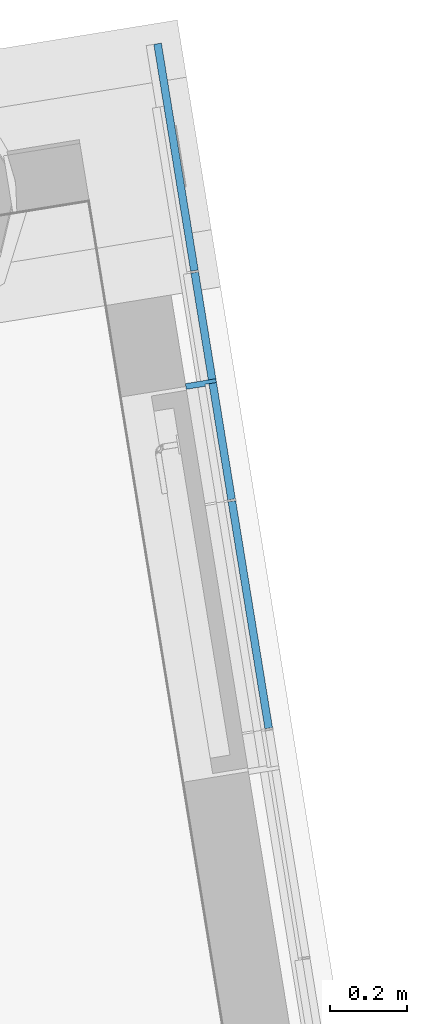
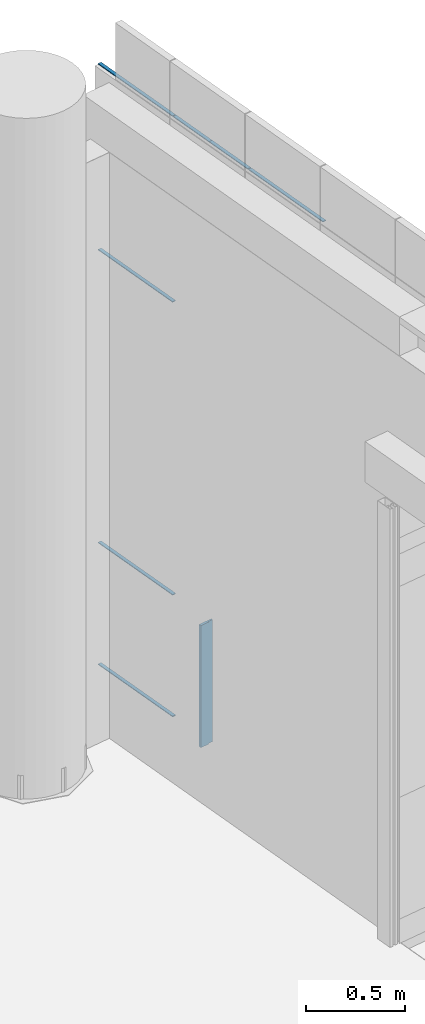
# One storey, part 10 of 38: 8 members, 1 element without a shape of its own.
"""IFC2X3 building model written with IfcOpenShell, lengths in millimetres."""

from ifc_helpers import new_model, entity, si_unit, converted_unit, derived_unit, direction, frame, origin, origin_with_axes, origin_2d_with_axis, place, context, subcontext, project, spatial, polyline, rectangle, outline, extrude, source, transform, mapped, material, type_object, element, aggregate, save


model = new_model("IFC2X3")

# Units and contexts
model_context = context("Model", 3, precision=0.01, world=origin(), true_north=direction((6.12323399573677e-17, 1.0)))
plan_context = context("Plan", 3, precision=1e-05, world=origin_with_axes())
body_context = subcontext(model_context, "Body", "Model", "MODEL_VIEW")
ifc_project = project(units=[converted_unit("PLANEANGLEUNIT", "DEGREE", entity("IfcPositiveLengthMeasure", 0.0174532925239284), si_unit("PLANEANGLEUNIT", "RADIAN"), dimensions=[0, 0, 0, 0, 0, 0, 0]), si_unit("AREAUNIT", "SQUARE_METRE"), si_unit("LENGTHUNIT", "METRE", prefix="MILLI"), si_unit("MASSUNIT", "GRAM", prefix="KILO"), si_unit("POWERUNIT", "WATT"), si_unit("PRESSUREUNIT", "PASCAL", prefix="KILO"), si_unit("FORCEUNIT", "NEWTON", prefix="KILO"), si_unit("ELECTRICVOLTAGEUNIT", "VOLT"), si_unit("ELECTRICCURRENTUNIT", "AMPERE"), si_unit("THERMODYNAMICTEMPERATUREUNIT", "DEGREE_CELSIUS"), si_unit("TIMEUNIT", "SECOND"), si_unit("VOLUMEUNIT", "CUBIC_METRE"), derived_unit("LINEARVELOCITYUNIT", [(si_unit("LENGTHUNIT", "METRE"), 1), (si_unit("TIMEUNIT", "SECOND"), -1)]), derived_unit("VOLUMETRICFLOWRATEUNIT", [(si_unit("VOLUMEUNIT", "CUBIC_METRE"), 1), (si_unit("TIMEUNIT", "SECOND"), -1)]), derived_unit("THERMALTRANSMITTANCEUNIT", [(si_unit("POWERUNIT", "WATT"), 1), (si_unit("THERMODYNAMICTEMPERATUREUNIT", "KELVIN"), -1), (si_unit("AREAUNIT", "SQUARE_METRE"), -1)]), derived_unit("SOUNDPRESSUREUNIT", [(si_unit("PRESSUREUNIT", "PASCAL"), 1)])], contexts=[model_context, plan_context])

# Site, building, storey
site_placement = place(None, frame((-0.00071070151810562, 0.00438415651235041, 0.0), z_axis=(0.0, 0.0, 1.0), x_axis=(-0.160236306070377, 0.987078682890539, 0.0)))
site = spatial("IfcSite", under=ifc_project, at=site_placement, Name="Default", CompositionType="ELEMENT")
building_placement = place(site_placement, origin_with_axes())
building = spatial("IfcBuilding", under=site, at=building_placement, Name="TOO", CompositionType="ELEMENT")
storey_placement = place(building_placement, frame((0.0, 0.0, 50999.9999999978), z_axis=(0.0, 0.0, 1.0), x_axis=(1.0, 0.0, 0.0)))
storey = spatial("IfcBuildingStorey", under=building, at=storey_placement, Name="Nivå D-H01", CompositionType="ELEMENT", Elevation=50999.9999999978)

# Curtain wall, members
curtain_wall_type = type_object("IfcCurtainWallType", Name="Curtain Wall:Curtain Wall Standard (Bruk kun denne)", PredefinedType="NOTDEFINED")
curtain_wall_placement = place(storey_placement, frame((0.0, 0.0, -50999.9999999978), z_axis=(0.0, 0.0, 1.0), x_axis=(1.0, 0.0, 0.0)))
curtain_wall = element("IfcCurtainWall", 1, at=curtain_wall_placement, inside=storey, type_object=curtain_wall_type, Name="Curtain Wall:Curtain Wall Standard (Bruk kun denne)", ObjectType="Curtain Wall:Curtain Wall Standard (Bruk kun denne)")
ifc_material_1 = material(Name="Rubber")
member_type_1 = type_object("IfcMemberType", Name="Rectangular Mullion:A246 - Fuge 5mm L09", PredefinedType="MULLION", material=ifc_material_1)
shared_shape_1 = source(origin(), body_context, "Body", "SweptSolid", [
    extrude(rectangle(XDim=5.0, YDim=20.0, at=origin_2d_with_axis()), frame((0.0, 10.0, -595.0), z_axis=(0.0, 0.0, 1.0), x_axis=(-1.0, 0.0, 0.0)), (0.0, 0.0, 1.0), 594.999999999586),
])
member_1_placement = place(curtain_wall_placement, frame((779580.119644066, -604232.480498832, 51149.9999999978), z_axis=(-1.0, 0.0, 0.0), x_axis=(0.0, 0.0, 1.0)))
member_1 = element("IfcMember", 2, at=member_1_placement, type_object=member_type_1, material=ifc_material_1, Name="Rectangular Mullion:A246 - Fuge 5mm L09", ObjectType="Rectangular Mullion:A246 - Fuge 5mm L09", context=body_context, shape_type="MappedRepresentation", body=[
    mapped(shared_shape_1, transform((0.0, 0.0, 0.0), scale=1.0)),
])
member_2_placement = place(curtain_wall_placement, frame((779580.119644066, -604232.480498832, 53704.9999999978), z_axis=(-1.0, 0.0, 0.0), x_axis=(0.0, 0.0, 1.0)))
member_2 = element("IfcMember", 3, at=member_2_placement, type_object=member_type_1, material=ifc_material_1, Name="Rectangular Mullion:A246 - Fuge 5mm L09", ObjectType="Rectangular Mullion:A246 - Fuge 5mm L09", context=body_context, shape_type="MappedRepresentation", body=[
    mapped(shared_shape_1, transform((0.0, 0.0, 0.0), scale=1.0)),
])
member_3_placement = place(curtain_wall_placement, frame((779580.119644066, -604232.480498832, 51899.9999999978), z_axis=(-1.0, 0.0, 0.0), x_axis=(0.0, 0.0, 1.0)))
member_3 = element("IfcMember", 4, at=member_3_placement, type_object=member_type_1, material=ifc_material_1, Name="Rectangular Mullion:A246 - Fuge 5mm L09", ObjectType="Rectangular Mullion:A246 - Fuge 5mm L09", context=body_context, shape_type="MappedRepresentation", body=[
    mapped(shared_shape_1, transform((0.0, 0.0, 0.0), scale=1.0)),
])
member_4_placement = place(curtain_wall_placement, frame((779580.119644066, -604232.480498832, 54850.0), z_axis=(-1.0, 0.0, 0.0), x_axis=(0.0, 0.0, 1.0)))
member_4 = element("IfcMember", 5, at=member_4_placement, type_object=member_type_1, material=ifc_material_1, Name="Rectangular Mullion:A246 - Fuge 5mm L09", ObjectType="Rectangular Mullion:A246 - Fuge 5mm L09", context=body_context, shape_type="MappedRepresentation", body=[
    mapped(shared_shape_1, transform((0.0, 0.0, 0.0), scale=1.0)),
])
member_5_placement = place(curtain_wall_placement, frame((778380.119644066, -604232.480498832, 54850.0), z_axis=(-1.0, 0.0, 0.0), x_axis=(0.0, 0.0, 1.0)))
member_5 = element("IfcMember", 6, at=member_5_placement, type_object=member_type_1, material=ifc_material_1, Name="Rectangular Mullion:A246 - Fuge 5mm L09", ObjectType="Rectangular Mullion:A246 - Fuge 5mm L09", context=body_context, shape_type="MappedRepresentation", body=[
    mapped(shared_shape_1, transform((0.0, 0.0, 0.0), scale=1.0)),
])
member_type_2 = type_object("IfcMemberType", Name="Rectangular Mullion:A246 - Fuge 5mm L09", PredefinedType="MULLION", material=ifc_material_1)
shared_shape_2 = source(origin(), body_context, "Body", "SweptSolid", [
    extrude(rectangle(XDim=5.0, YDim=20.0, at=origin_2d_with_axis()), frame((0.0, 10.0, -307.50000000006), z_axis=(0.0, 0.0, 1.0), x_axis=(-1.0, 0.0, 0.0)), (0.0, 0.0, 1.0), 307.500000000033),
])
member_6_placement = place(curtain_wall_placement, frame((778980.119644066, -604232.480498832, 54850.0), z_axis=(-1.0, 0.0, 0.0), x_axis=(0.0, 0.0, 1.0)))
member_6 = element("IfcMember", 7, at=member_6_placement, type_object=member_type_2, material=ifc_material_1, Name="Rectangular Mullion:A246 - Fuge 5mm L09", ObjectType="Rectangular Mullion:A246 - Fuge 5mm L09", context=body_context, shape_type="MappedRepresentation", body=[
    mapped(shared_shape_2, transform((0.0, 0.0, 0.0), scale=1.0)),
])
member_type_3 = type_object("IfcMemberType", Name="Rectangular Mullion:A246 - Fuge 5mm L09", PredefinedType="MULLION", material=ifc_material_1)
shared_shape_3 = source(origin(), body_context, "Body", "SweptSolid", [
    extrude(rectangle(XDim=5.0, YDim=20.0, at=origin_2d_with_axis()), frame((0.0, 10.0, -287.500000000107), z_axis=(0.0, 0.0, 1.0), x_axis=(-1.0, 0.0, 0.0)), (0.0, 0.0, 1.0), 287.500000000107),
])
member_7_placement = place(curtain_wall_placement, frame((779287.619644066, -604232.480498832, 54850.0), z_axis=(-1.0, 0.0, 0.0), x_axis=(0.0, 0.0, 1.0)))
member_7 = element("IfcMember", 8, at=member_7_placement, type_object=member_type_3, material=ifc_material_1, Name="Rectangular Mullion:A246 - Fuge 5mm L09", ObjectType="Rectangular Mullion:A246 - Fuge 5mm L09", context=body_context, shape_type="MappedRepresentation", body=[
    mapped(shared_shape_3, transform((0.0, 0.0, 0.0), scale=1.0)),
])
ifc_material_2 = material(Name="A200 - Metall - Stål")
member_type_4 = type_object("IfcMemberType", Name="Rectangular Mullion:A248-M11 vinkelprofil 80 høyre", PredefinedType="MULLION", material=ifc_material_2)
shared_shape_4 = source(origin(), body_context, "Body", "SweptSolid", [
    extrude(outline(polyline([(-43.3333333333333, -8.33333333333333), (36.6666666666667, -8.33333333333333), (36.6666666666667, 1.66666666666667), (6.66666666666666, 1.66666666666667), (6.66666666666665, 6.66666666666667), (-43.3333333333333, 6.66666666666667), (-43.3333333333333, -8.33333333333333)])), frame((0.833333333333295, 36.6666666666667, -752.500000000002), z_axis=(0.0, 0.0, 1.0), x_axis=(0.0, -1.0, 0.0)), (0.0, 0.0, 1.0), 752.500000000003),
])
member_8_placement = place(curtain_wall_placement, frame((779287.619644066, -604232.480498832, 51147.4999999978), z_axis=(0.0, 0.0, -1.0), x_axis=(-1.0, 0.0, 0.0)))
member_8 = element("IfcMember", 9, at=member_8_placement, type_object=member_type_4, material=ifc_material_2, Name="Rectangular Mullion:A248-M11 vinkelprofil 80 høyre", ObjectType="Rectangular Mullion:A248-M11 vinkelprofil 80 høyre", context=body_context, shape_type="MappedRepresentation", body=[
    mapped(shared_shape_4, transform((0.0, 0.0, 0.0), scale=1.0)),
])
aggregate(curtain_wall, [member_1, member_2, member_3, member_6, member_7, member_4, member_5, member_8])

save(model, "model.ifc")
